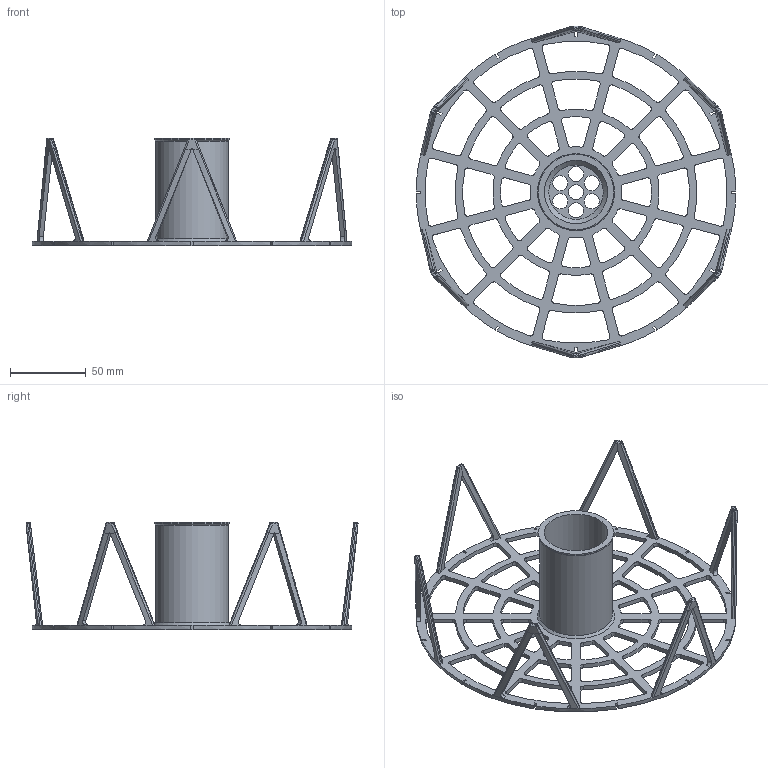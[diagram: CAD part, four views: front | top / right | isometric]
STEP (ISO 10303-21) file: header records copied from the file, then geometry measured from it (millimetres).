
FILE_DESCRIPTION(/* description */ (''),/* implementation_level */ '2;1');
FILE_NAME(/* name */ 'AchseSenkrecht.step',/* time_stamp */ '2025-09-21T14:07:47+02:00',/* author */ (''),/* organization */ (''),/* preprocessor_version */ 'ST-DEVELOPER v20.1',/* originating_system */ 'Autodesk Translation Framework v14.10.0.0',/* authorisation */ '');
FILE_SCHEMA (('AUTOMOTIVE_DESIGN { 1 0 10303 214 3 1 1 }'));
Length unit declared in the file: millimetre
Products named in the file (1): RotellaInnen
Bounding box: 211.48 x 219.59 x 71 mm (x, y, z)
Volume: 84448.2 mm3; surface area: 72753.2 mm2
Topology: 1 solids, 1 shells, 521 faces, 1500 edges, 971 vertices
Faces by surface type: cylinder 226, bspline 126, plane 118, sphere 24, cone 21, torus 6
Full cylindrical faces by diameter (mm): 10 x7, 42 x1, 48 x1, 50 x1
Entity records: 23168 total; most frequent: CARTESIAN_POINT 9773, ORIENTED_EDGE 3000, DIRECTION 2555, EDGE_CURVE 1500, AXIS2_PLACEMENT_3D 983, VERTEX_POINT 971, EDGE_LOOP 609, LINE 589
